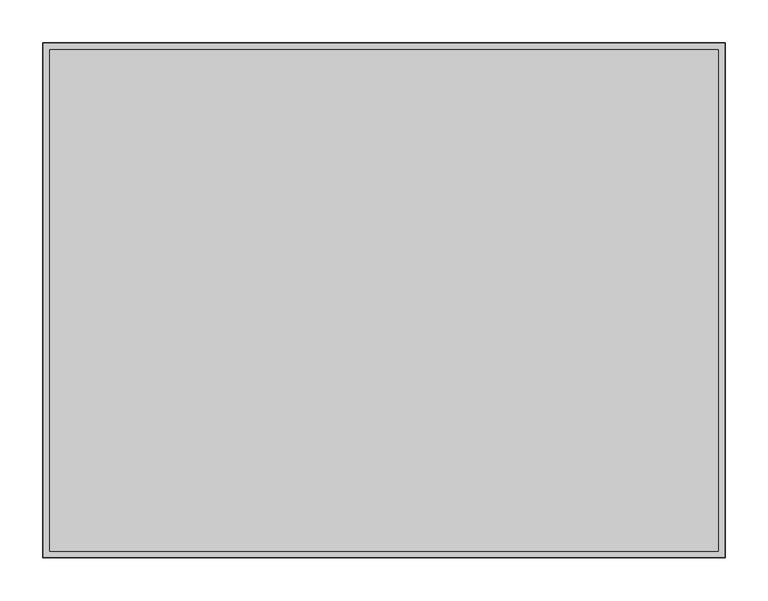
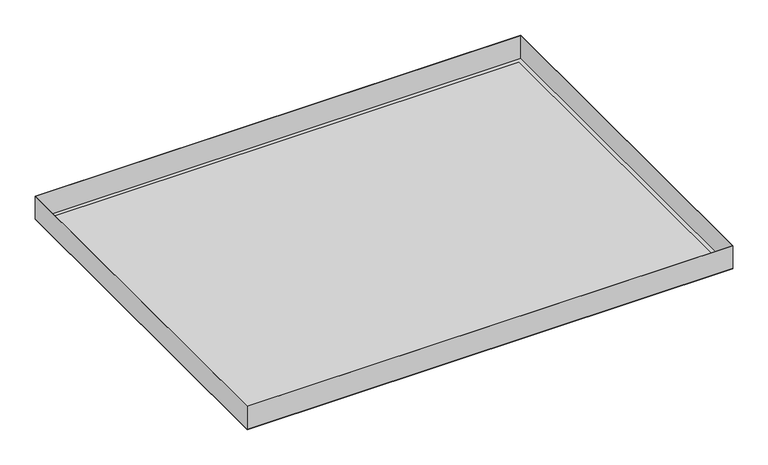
"""IFC4 building model written with IfcOpenShell, lengths in millimetres: proxy geometry, durlum_S4.7K_panel : durlum_S4.7_panel_wall_length_cut."""

from ifc_helpers import new_model, si_unit, frame, origin, origin_with_axes, place, context, project, spatial, polyline, outline, extrude, source, transform, mapped, element, save


def generic_models_a68d030a(model_context):
    return source(origin(), model_context, "Body", "SweptSolid", [
        extrude(outline(polyline([(397.0, 299.75), (397.0, -299.75), (-397.0, -299.75), (-397.0, 299.75), (397.0, 299.75)]), holes=[polyline([(396.4, 299.15), (-396.4, 299.15), (-396.4, -299.15), (396.4, -299.15), (396.4, 299.15)])]), frame((0.0, 0.0, 0.6), z_axis=(0.0, 0.0, 1.0), x_axis=(1.0, 0.0, 0.0)), (0.0, 0.0, 1.0), 39.4),
        extrude(outline(polyline([(389.0, 291.75), (389.0, -291.75), (-389.0, -291.75), (-389.0, 291.75), (389.0, 291.75)])), frame((0.0, 0.0, 0.6), z_axis=(0.0, 0.0, 1.0), x_axis=(1.0, 0.0, 0.0)), (0.0, 0.0, 1.0), 0.6),
        extrude(outline(polyline([(397.0, 299.75), (397.0, -299.75), (-397.0, -299.75), (-397.0, 299.75), (397.0, 299.75)]), holes=[polyline([(389.0, 291.75), (-389.0, 291.75), (-389.0, -291.75), (389.0, -291.75), (389.0, 291.75)])]), origin_with_axes(), (0.0, 0.0, 1.0), 0.6),
        extrude(outline(polyline([(389.0, 291.75), (389.0, -291.75), (-389.0, -291.75), (-389.0, 291.75), (389.0, 291.75)])), origin_with_axes(), (0.0, 0.0, 1.0), 0.6),
    ])


if __name__ == "__main__":
    model = new_model("IFC4")
    model_context = context("Model", 3, world=origin())
    ifc_project = project(units=[si_unit("LENGTHUNIT", "METRE", prefix="MILLI")], contexts=[model_context])
    site = spatial("IfcSite", under=ifc_project)
    building = spatial("IfcBuilding", under=site)
    placement = place(None, origin())
    generic_models_shape = generic_models_a68d030a(model_context)
    element("IfcBuildingElementProxy", 1, Name="durlum_S4.7K_panel : durlum_S4.7_panel_wall_length_cut", ObjectType="durlum_S4.7K_panel : durlum_S4.7_panel_wall_length_cut", at=placement, inside=building, context=model_context, shape_type="MappedRepresentation", body=[
        mapped(generic_models_shape, transform((0.0, 0.0, 0.0), x_axis=(1.0, 0.0, 0.0), y_axis=(0.0, 1.0, 0.0), z_axis=(0.0, 0.0, 1.0))),
    ])
    save(model, "model.ifc")
